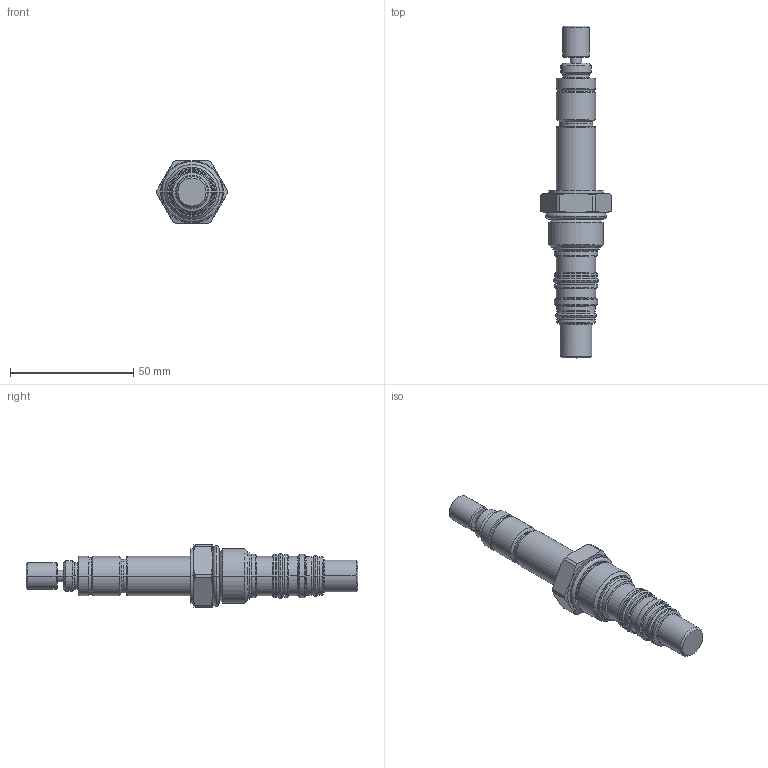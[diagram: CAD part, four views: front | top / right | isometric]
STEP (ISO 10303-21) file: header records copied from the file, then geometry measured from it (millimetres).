
FILE_DESCRIPTION((''),'2;1');
FILE_NAME('SXCL-3XJ_SW0002','2009-08-05T',('JCS'),(''),'PRO/ENGINEER BY PARAMETRIC TECHNOLOGY CORPORATION, 2008510','PRO/ENGINEER BY PARAMETRIC TECHNOLOGY CORPORATION, 2008510','');
FILE_SCHEMA(('CONFIG_CONTROL_DESIGN'));
Length unit declared in the file: inch
Products named in the file (1): SXCL-3XJ_SW0002
Bounding box: 28.57 x 134.7 x 25.4 mm (x, y, z)
Volume: 29399.4 mm3; surface area: 10216.7 mm2
Topology: 4 solids, 4 shells, 211 faces, 485 edges, 297 vertices
Faces by surface type: cylinder 66, cone 62, torus 50, plane 33
Entity records: 6165 total; most frequent: DIRECTION 1204, CARTESIAN_POINT 1116, ORIENTED_EDGE 970, AXIS2_PLACEMENT_3D 536, EDGE_CURVE 485, CIRCLE 325, VERTEX_POINT 297, EDGE_LOOP 232
